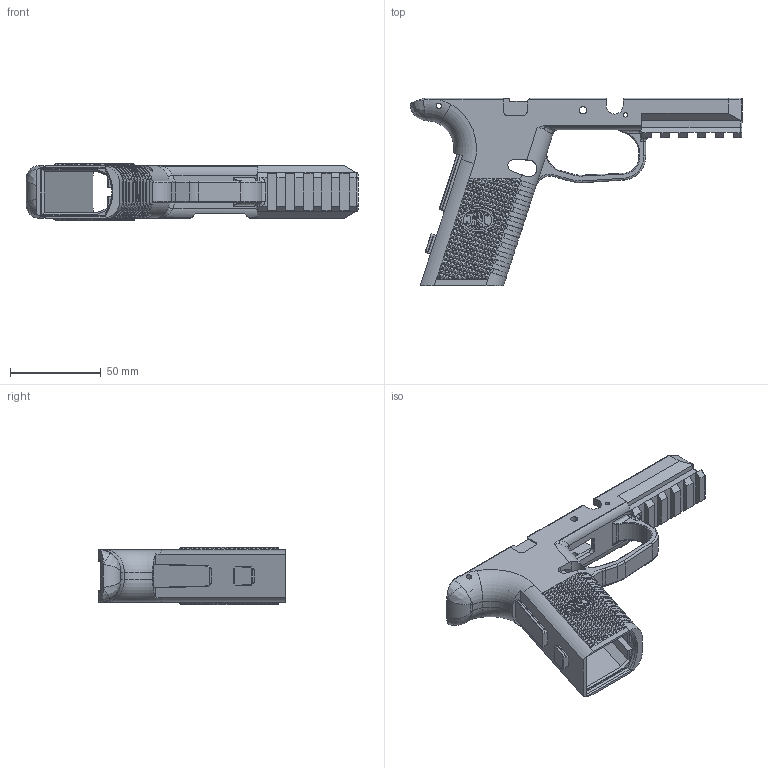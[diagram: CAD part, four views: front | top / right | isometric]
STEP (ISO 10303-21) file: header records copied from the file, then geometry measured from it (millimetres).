
FILE_DESCRIPTION(/* description */ (''),/* implementation_level */ '2;1');
FILE_NAME(/* name */ 'C:/Users/Bob/Desktop/FNS-940_Texture_4 v1.step',/* time_stamp */ '2021-06-04T20:04:22-07:00',/* author */ (''),/* organization */ (''),/* preprocessor_version */ 'ST-DEVELOPER v18.1',/* originating_system */ 'Autodesk Translation Framework v10.9.0.1377',/* authorisation */ '');
FILE_SCHEMA (('AUTOMOTIVE_DESIGN { 1 0 10303 214 3 1 1 }'));
Products named in the file (5): FNS-940_Texture_4; Main Frame; Compact Size Grip; Standard Size Grip; Standard Size Grip (Stopgap)
Assembly tree (4 placements, depth 2):
  FNS-940_Texture_4
    Main Frame
    Compact Size Grip
    Standard Size Grip
    Standard Size Grip (Stopgap)
Bounding box: 183.1 x 103.6 x 31.54 mm (x, y, z)
Volume: 81175.4 mm3; surface area: 48222.8 mm2
Topology: 1 solids, 1 shells, 2993 faces, 6501 edges, 3515 vertices
Faces by surface type: plane 2648, cylinder 159, bspline 153, torus 27, cone 6
Full cylindrical faces by diameter (mm): 0.612 x2, 2.5 x2, 3 x2, 4.1 x2
Entity records: 93176 total; most frequent: CARTESIAN_POINT 30566, ORIENTED_EDGE 12998, DIRECTION 12119, EDGE_CURVE 6499, LINE 5587, VECTOR 5587, VERTEX_POINT 3515, AXIS2_PLACEMENT_3D 3266
